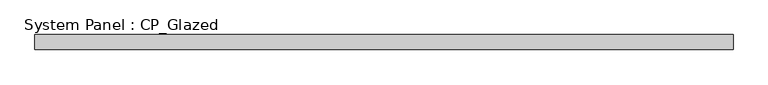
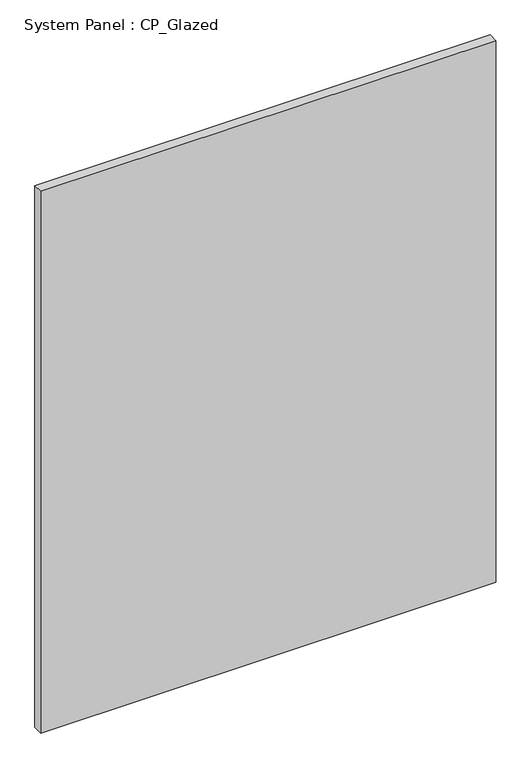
"""IFC4 building model written with IfcOpenShell, lengths in millimetres: plate geometry, System Panel : CP_Glazed."""

from ifc_helpers import new_model, si_unit, origin, origin_with_axes, place, context, project, spatial, polyline, outline, extrude, source, transform, mapped, element, save


def system_panel_cp_glazed_f0963528(model_context):
    return source(origin(), model_context, "Body", "SweptSolid", [
        extrude(outline(polyline([(587.9041667, 19.05), (-587.9041667, 19.05), (-587.9041667, 44.45), (587.9041667, 44.45), (587.9041667, 19.05)])), origin_with_axes(), (0.0, 0.0, 1.0), 1479.55),
    ])


if __name__ == "__main__":
    model = new_model("IFC4")
    model_context = context("Model", 3, world=origin())
    ifc_project = project(units=[si_unit("LENGTHUNIT", "METRE", prefix="MILLI")], contexts=[model_context])
    site = spatial("IfcSite", under=ifc_project)
    building = spatial("IfcBuilding", under=site)
    placement = place(None, origin())
    system_panel_cp_glazed_shape = system_panel_cp_glazed_f0963528(model_context)
    element("IfcPlate", 1, ObjectType="System Panel : CP_Glazed", at=placement, inside=building, context=model_context, shape_type="MappedRepresentation", body=[
        mapped(system_panel_cp_glazed_shape, transform((0.0, 0.0, 0.0), x_axis=(1.0, 0.0, 0.0), y_axis=(0.0, 1.0, 0.0), z_axis=(0.0, 0.0, 1.0))),
    ])
    save(model, "model.ifc")
